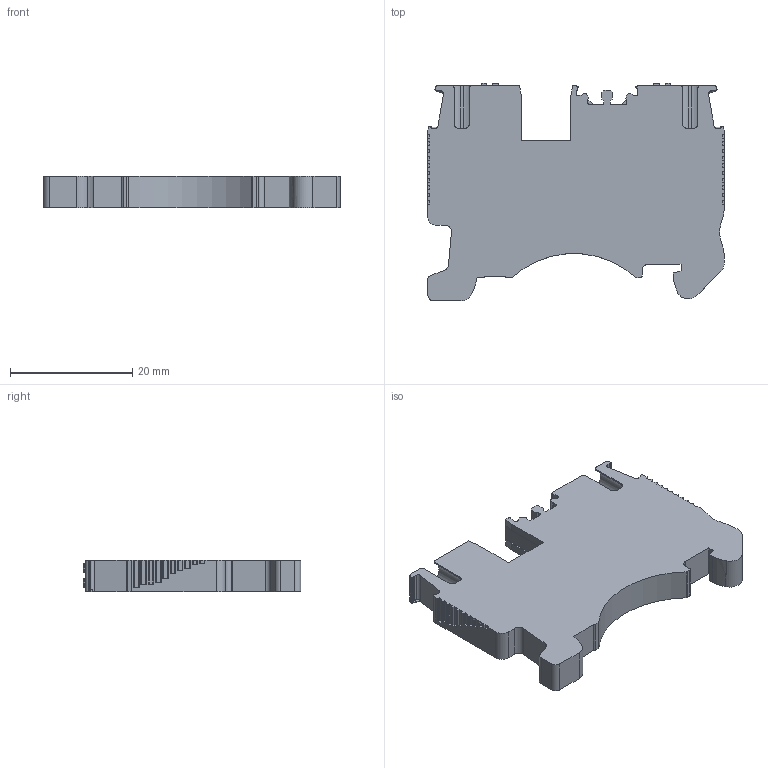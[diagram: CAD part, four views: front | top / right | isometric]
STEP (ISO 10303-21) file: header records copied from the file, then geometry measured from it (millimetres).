
FILE_DESCRIPTION((''),'2;1');
FILE_NAME('PRT0016','2020-05-27T',('Administrator'),(''),'PRO/ENGINEER BY PARAMETRIC TECHNOLOGY CORPORATION, 2010280','PRO/ENGINEER BY PARAMETRIC TECHNOLOGY CORPORATION, 2010280','');
FILE_SCHEMA(('CONFIG_CONTROL_DESIGN'));
Length unit declared in the file: millimetre
Products named in the file (1): PRT0016
Bounding box: 48.6 x 35.65 x 5.2 mm (x, y, z)
Volume: 6615.7 mm3; surface area: 4093.8 mm2
Topology: 1 solids, 1 shells, 428 faces, 1223 edges, 791 vertices
Faces by surface type: plane 297, cylinder 113, sphere 16, cone 2
Entity records: 13945 total; most frequent: CARTESIAN_POINT 2777, ORIENTED_EDGE 2414, DIRECTION 2212, EDGE_CURVE 1207, VECTOR 906, LINE 906, VERTEX_POINT 791, AXIS2_PLACEMENT_3D 653
